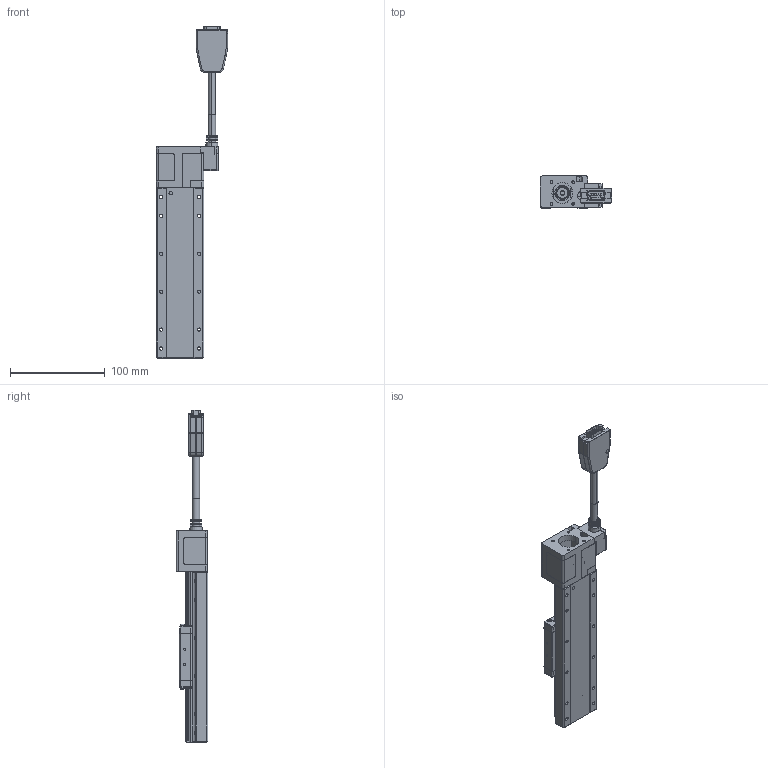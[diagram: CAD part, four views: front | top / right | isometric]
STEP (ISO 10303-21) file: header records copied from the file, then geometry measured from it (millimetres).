
FILE_DESCRIPTION (( 'STEP AP203' ), '1' );
FILE_NAME ('CXN50100-S2?N(42框無馬達).', '2024-01-05T02:24:33', ( '' ), ( '' ), 'SwSTEP 2.0', 'SolidWorks 2019', '' );
FILE_SCHEMA (( 'CONFIG_CONTROL_DESIGN' ));
Length unit declared in the file: millimetre
Products named in the file (4): Group1^CXN50100-S2?N(42框無馬達)_defeature-_GMT; CXN50100-S2?N(42框無馬達); CXN50-S2OPAN-01_GMT; Group2^CXN50100-S2?N(42框無馬達)_defeature-_GMT
Assembly tree (3 placements, depth 2):
  CXN50100-S2?N(42框無馬達)
    Group1^CXN50100-S2?N(42框無馬達)_defeature-_GMT
    Group2^CXN50100-S2?N(42框無馬達)_defeature-_GMT
    CXN50-S2OPAN-01_GMT
Bounding box: 75 x 33.5 x 350.6 mm (x, y, z)
Volume: 57598.2 mm3; surface area: 107473.6 mm2
Topology: 6 solids, 57 shells, 4504 faces, 11527 edges, 7001 vertices
Faces by surface type: plane 1590, cylinder 1354, cone 717, torus 334, bspline 317, sphere 192
Entity records: 147790 total; most frequent: CARTESIAN_POINT 40132, DIRECTION 23052, ORIENTED_EDGE 22408, EDGE_CURVE 11204, AXIS2_PLACEMENT_3D 8768, VERTEX_POINT 6904, LINE 5516, VECTOR 5516
